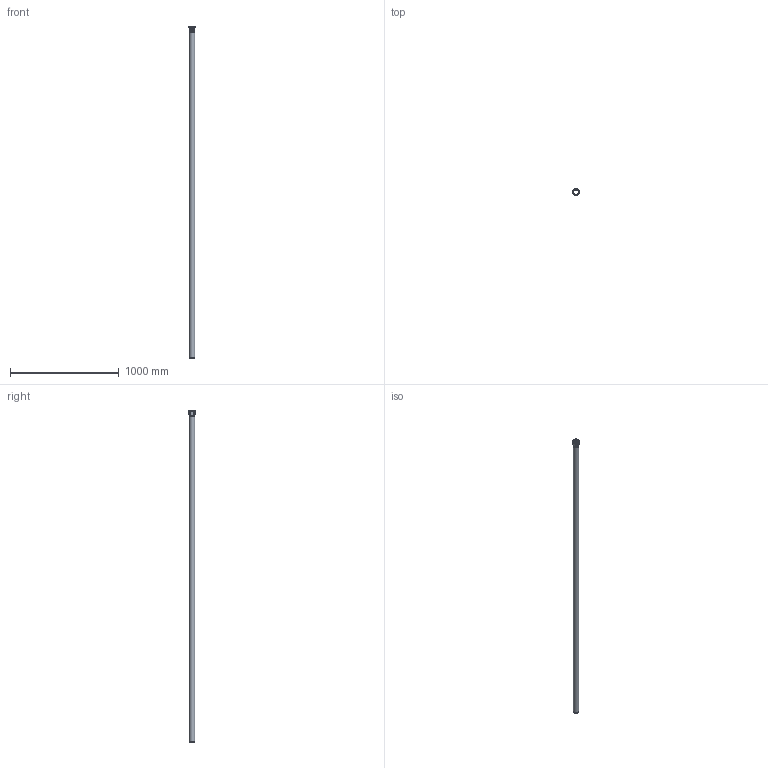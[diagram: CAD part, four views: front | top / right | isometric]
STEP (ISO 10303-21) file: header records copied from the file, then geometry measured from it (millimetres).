
FILE_DESCRIPTION(/* description */ (''),/* implementation_level */ '2;1');
FILE_NAME(/* name */ 'Z:\Geberit\Export\NewStep\390207.stp',/* time_stamp */ '2014-04-02T08:09:42+02:00',/* author */ ('ML'),/* organization */ (''),/* preprocessor_version */ 'ST-DEVELOPER v15.2',/* originating_system */ 'Autodesk Inventor 2014',/* authorisation */ '');
FILE_SCHEMA (('AUTOMOTIVE_DESIGN { 1 0 10303 214 3 1 1 }'));
Length unit declared in the file: millimetre
Products named in the file (3): 861423; 861582ohne; 390207
Bounding box: 63.5 x 63.5 x 3050.8 mm (x, y, z)
Volume: 931649.3 mm3; surface area: 933216.1 mm2
Topology: 2 solids, 2 shells, 47 faces, 104 edges, 71 vertices
Faces by surface type: torus 24, cylinder 11, plane 10, cone 2
Full cylindrical faces by diameter (mm): 46.15 x2, 50.15 x2, 50.8 x2, 52.8 x1, 54.8 x2, 59.5 x1, 63.5 x1
Entity records: 1971 total; most frequent: CARTESIAN_POINT 930, DIRECTION 182, ORIENTED_EDGE 174, AXIS2_PLACEMENT_3D 91, EDGE_CURVE 87, EDGE_LOOP 78, VERTEX_POINT 71, STYLED_ITEM 49
